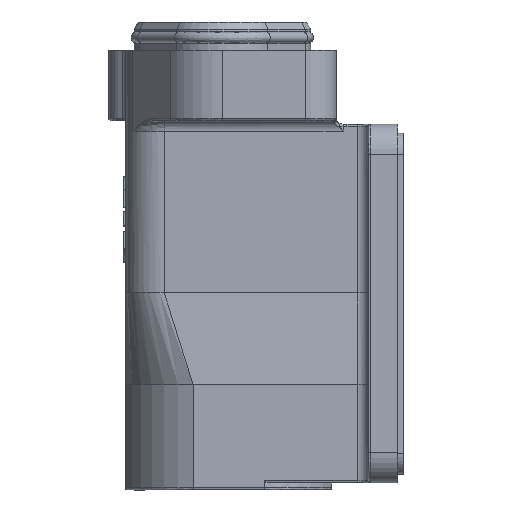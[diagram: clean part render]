
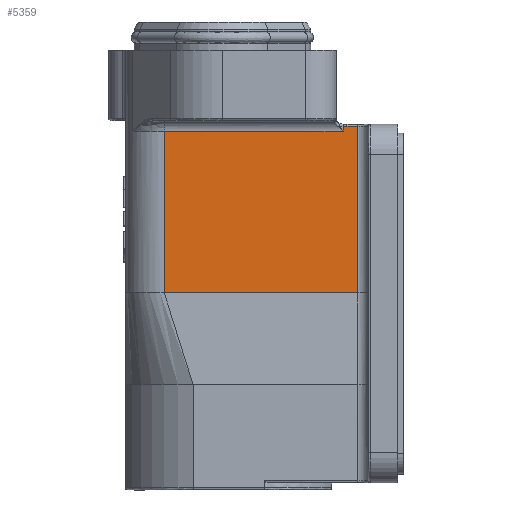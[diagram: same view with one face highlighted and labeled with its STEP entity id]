
A CAD part, front view. The second image highlights one B-rep face of the part: STEP entity #5359.
In plain terms, the highlighted planar face has unit normal (0, -1, 0).
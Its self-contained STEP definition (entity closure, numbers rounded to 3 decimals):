
#4794=PLANE('',#17371);
#5359=ADVANCED_FACE('',(#6237),#4794,.T.);
#6237=FACE_OUTER_BOUND('',#6921,.T.);
#6921=EDGE_LOOP('',(#9881,#9882,#9883,#9884,#9885,#9886,#9887));
#9881=ORIENTED_EDGE('',*,*,#13434,.T.);
#9882=ORIENTED_EDGE('',*,*,#13413,.T.);
#9883=ORIENTED_EDGE('',*,*,#13435,.T.);
#9884=ORIENTED_EDGE('',*,*,#13436,.T.);
#9885=ORIENTED_EDGE('',*,*,#13437,.T.);
#9886=ORIENTED_EDGE('',*,*,#13421,.T.);
#9887=ORIENTED_EDGE('',*,*,#13428,.T.);
#11914=VERTEX_POINT('',#25536);
#11916=VERTEX_POINT('',#25540);
#11921=VERTEX_POINT('',#25558);
#11923=VERTEX_POINT('',#25588);
#11928=VERTEX_POINT('',#25619);
#11931=VERTEX_POINT('',#25657);
#11932=VERTEX_POINT('',#25659);
#13413=EDGE_CURVE('',#11914,#11916,#14656,.T.);
#13421=EDGE_CURVE('',#11921,#11923,#14661,.T.);
#13428=EDGE_CURVE('',#11923,#11928,#14665,.T.);
#13434=EDGE_CURVE('',#11928,#11914,#14668,.T.);
#13435=EDGE_CURVE('',#11916,#11931,#14669,.T.);
#13436=EDGE_CURVE('',#11931,#11932,#14670,.T.);
#13437=EDGE_CURVE('',#11932,#11921,#14671,.T.);
#14656=LINE('',#25541,#15677);
#14661=LINE('',#25587,#15682);
#14665=LINE('',#25620,#15686);
#14668=LINE('',#25654,#15689);
#14669=LINE('',#25656,#15690);
#14670=LINE('',#25658,#15691);
#14671=LINE('',#25660,#15692);
#15677=VECTOR('',#19939,1.);
#15682=VECTOR('',#19950,1.);
#15686=VECTOR('',#19960,1.);
#15689=VECTOR('',#19971,1.);
#15690=VECTOR('',#19974,1.);
#15691=VECTOR('',#19975,1.);
#15692=VECTOR('',#19976,1.);
#17371=AXIS2_PLACEMENT_3D('',#25661,#19977,#19978);
#19939=DIRECTION('',(-1.,0.,0.));
#19950=DIRECTION('',(1.,0.,0.));
#19960=DIRECTION('',(0.,0.,1.));
#19971=DIRECTION('',(-1.,0.,0.));
#19974=DIRECTION('',(0.,0.,-1.));
#19975=DIRECTION('',(-1.,0.,0.));
#19976=DIRECTION('',(0.,0.,-1.));
#19977=DIRECTION('',(0.,-1.,0.));
#19978=DIRECTION('',(-1.,0.,0.));
#25536=CARTESIAN_POINT('',(17.7,-13.65,-10.8));
#25540=CARTESIAN_POINT('',(17.15,-13.65,-10.8));
#25541=CARTESIAN_POINT('',(17.7,-13.65,-10.8));
#25558=CARTESIAN_POINT('',(-8.25,-13.65,-34.5));
#25587=CARTESIAN_POINT('',(-8.25,-13.65,-34.5));
#25588=CARTESIAN_POINT('',(19.2,-13.65,-34.5));
#25619=CARTESIAN_POINT('',(19.2,-13.65,-10.8));
#25620=CARTESIAN_POINT('',(19.2,-13.65,-34.5));
#25654=CARTESIAN_POINT('',(19.2,-13.65,-10.8));
#25656=CARTESIAN_POINT('',(17.15,-13.65,-10.8));
#25657=CARTESIAN_POINT('',(17.15,-13.65,-11.5));
#25658=CARTESIAN_POINT('',(17.15,-13.65,-11.5));
#25659=CARTESIAN_POINT('',(-8.25,-13.65,-11.5));
#25660=CARTESIAN_POINT('',(-8.25,-13.65,-11.5));
#25661=CARTESIAN_POINT('',(21.,-13.65,-8.3));
